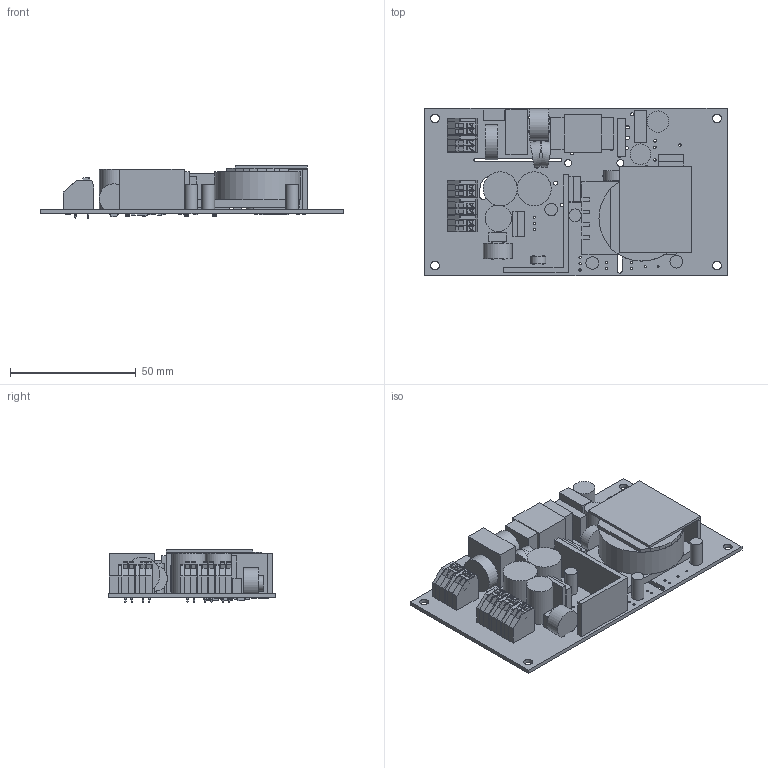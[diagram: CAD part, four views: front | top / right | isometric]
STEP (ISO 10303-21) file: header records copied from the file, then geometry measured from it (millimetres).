
FILE_DESCRIPTION(('Open CASCADE Model'),'2;1');
FILE_NAME('Open CASCADE Shape Model','2020-07-08T16:20:22',('Author'),( 'Open CASCADE'),'Open CASCADE STEP processor 6.8','Open CASCADE 6.8' ,'Unknown');
FILE_SCHEMA(('AUTOMOTIVE_DESIGN { 1 0 10303 214 1 1 1 1 }'));
Length unit declared in the file: millimetre
Products named in the file (116): PCB; Board; R118; 0805_R; R33; R506; R131; C126; R505; 1206_R; R124; R129; D103; SOD-123; R119; R117; R116; C119; R502; C136; R120; ZD50; R40; C10; C21; C25; C26; R28; R29; R31; R32; R34; R35; R37; R38; R39; R15; R14; ZD51; D102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
Assembly tree (158 placements, depth 4):
  PCB
    Board
    R118
      0805_R
    R33
      0805_R
    R506
      0805_R
    R131
      0805_R
    C126
      0805_R
    R505
      1206_R
    R124
      0805_R
    R129
      0805_R
    D103
      SOD-123
    R119
      0805_R
    R117
      1206_R
    R116
      1206_R
    C119
      0805_R
    R502
      0805_R
    C136
      0805_R
    R120
      1206_R
    ZD50
      SOD-123
    R40
      0805_R
    C10
      0805_R
    C21
      0805_R
    C25
      0805_R
    C26
      0805_R
    R28
      0805_R
    R29
      0805_R
    R31
      0805_R
    R32
      0805_R
    R34
      0805_R
    R35
      0805_R
    R37
      0805_R
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Bounding box: 120.25 x 66.5 x 21 mm (x, y, z)
Volume: 60065.9 mm3; surface area: 51634 mm2
Topology: 108 solids, 108 shells, 2977 faces, 7841 edges, 5218 vertices
Faces by surface type: plane 2175, bspline 384, cylinder 238, extrusion 160, cone 20
Full cylindrical faces by diameter (mm): 0.8 x6, 0.9 x18, 1 x43, 1.2 x22, 1.3 x4, 1.5 x1, 2.8 x2, 3.5 x8, 5 x5, 6 x1, 8.2 x1, 8.5 x1, 10 x3, 10.5 x1, 11.5 x1, 12.5 x1, 13.5 x2, 14 x1, 34 x1
Entity records: 87367 total; most frequent: CARTESIAN_POINT 31736, DIRECTION 9139, VECTOR 6179, LINE 6169, ORIENTED_EDGE 5114, PCURVE 5114, DEFINITIONAL_REPRESENTATION 5114, EDGE_CURVE 2557
